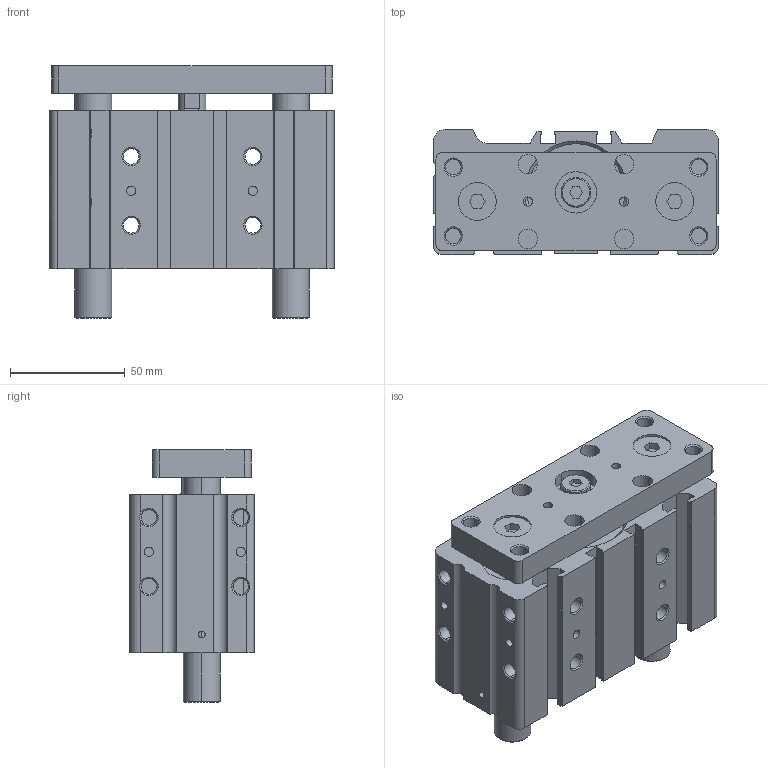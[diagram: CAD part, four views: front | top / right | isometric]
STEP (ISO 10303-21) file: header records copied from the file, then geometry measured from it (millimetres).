
FILE_DESCRIPTION((''),'2;1');
FILE_NAME('0822065100_ASM','2017-07-17T',('hug2hc'),(''),'CREO PARAMETRIC BY PTC INC, 2016260','CREO PARAMETRIC BY PTC INC, 2016260','');
FILE_SCHEMA(('CONFIG_CONTROL_DESIGN'));
Length unit declared in the file: millimetre
Products named in the file (3): 0822065100-A; 0822065100-B; 0822065100_ASM
Assembly tree (2 placements, depth 2):
  0822065100_ASM
    0822065100-A
    0822065100-B
Bounding box: 124 x 54.5 x 110 mm (x, y, z)
Volume: 405701.7 mm3; surface area: 106451.7 mm2
Topology: 2 solids, 2 shells, 351 faces, 869 edges, 560 vertices
Faces by surface type: plane 159, cylinder 134, cone 56, bspline 2
Entity records: 10962 total; most frequent: CARTESIAN_POINT 2181, DIRECTION 1883, ORIENTED_EDGE 1738, EDGE_CURVE 869, AXIS2_PLACEMENT_3D 682, VERTEX_POINT 560, VECTOR 519, LINE 519
